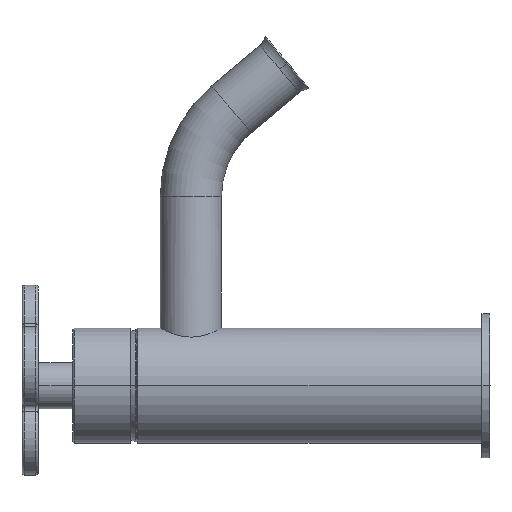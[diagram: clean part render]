
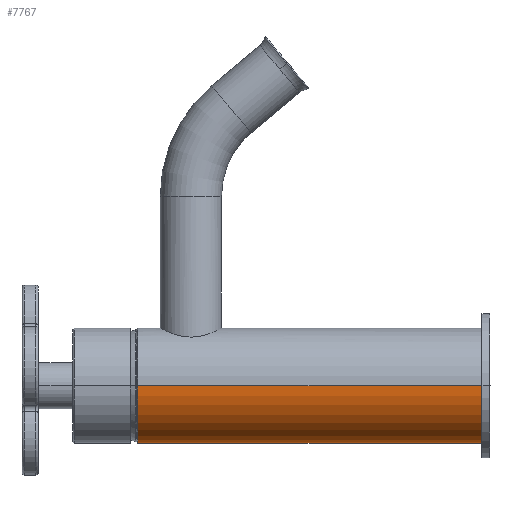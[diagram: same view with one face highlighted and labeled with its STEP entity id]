
A CAD part, left-side view. The second image highlights one B-rep face of the part: STEP entity #7767.
In plain terms, the highlighted cylindrical face has radius 20 mm (diameter 40 mm), a partial arc.
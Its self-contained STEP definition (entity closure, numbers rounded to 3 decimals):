
#2239=DIRECTION('',(0.,-1.,0.));
#2240=VECTOR('',#2239,119.5);
#2241=CARTESIAN_POINT('',(20.,122.5,0.));
#2242=LINE('',#2241,#2240);
#2243=CARTESIAN_POINT('',(0.,122.5,0.));
#2244=DIRECTION('',(0.,-1.,0.));
#2245=DIRECTION('',(-1.,0.,0.));
#2246=AXIS2_PLACEMENT_3D('',#2243,#2244,#2245);
#2248=DIRECTION('',(0.,-1.,0.));
#2249=VECTOR('',#2248,119.5);
#2250=CARTESIAN_POINT('',(-20.,122.5,0.));
#2251=LINE('',#2250,#2249);
#2267=CARTESIAN_POINT('',(0.,3.,0.));
#2268=DIRECTION('',(0.,1.,0.));
#2269=DIRECTION('',(1.,0.,0.));
#2270=AXIS2_PLACEMENT_3D('',#2267,#2268,#2269);
#4017=CARTESIAN_POINT('',(-20.,122.5,0.));
#4018=CARTESIAN_POINT('',(20.,122.5,0.));
#4019=VERTEX_POINT('',#4017);
#4020=VERTEX_POINT('',#4018);
#4025=CARTESIAN_POINT('',(-20.,3.,0.));
#4026=CARTESIAN_POINT('',(20.,3.,0.));
#4027=VERTEX_POINT('',#4025);
#4028=VERTEX_POINT('',#4026);
#7754=CARTESIAN_POINT('',(0.,-3.,0.));
#7755=DIRECTION('',(0.,1.,0.));
#7756=DIRECTION('',(1.,0.,0.));
#7757=AXIS2_PLACEMENT_3D('',#7754,#7755,#7756);
#7758=CYLINDRICAL_SURFACE('',#7757,20.);
#7760=ORIENTED_EDGE('',*,*,#7759,.F.);
#7761=ORIENTED_EDGE('',*,*,#7736,.F.);
#7763=ORIENTED_EDGE('',*,*,#7762,.F.);
#7764=ORIENTED_EDGE('',*,*,#7732,.T.);
#7765=EDGE_LOOP('',(#7760,#7761,#7763,#7764));
#7766=FACE_OUTER_BOUND('',#7765,.F.);
#2247=CIRCLE('',#2246,20.);
#2271=CIRCLE('',#2270,20.);
#7732=EDGE_CURVE('',#4019,#4027,#2251,.T.);
#7736=EDGE_CURVE('',#4020,#4028,#2242,.T.);
#7759=EDGE_CURVE('',#4028,#4027,#2271,.T.);
#7762=EDGE_CURVE('',#4019,#4020,#2247,.T.);
#7767=ADVANCED_FACE('',(#7766),#7758,.T.);
